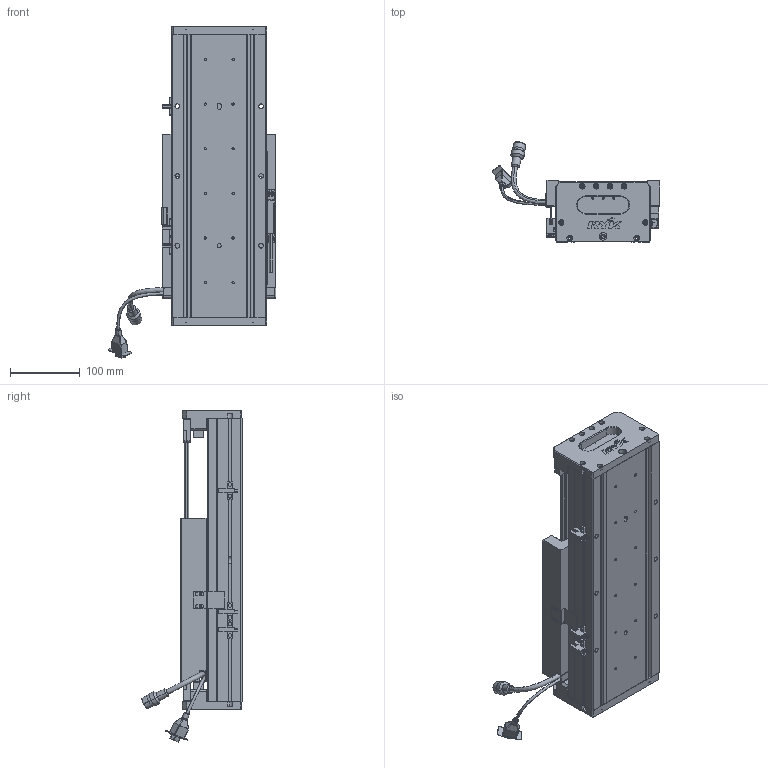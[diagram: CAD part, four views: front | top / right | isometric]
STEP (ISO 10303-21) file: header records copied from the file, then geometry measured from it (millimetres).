
FILE_DESCRIPTION (( 'STEP AP203' ), '1' );
FILE_NAME ('Z3-RY140D-1-L500-B-K.SLDASM_0100.step', '2021-05-17T07:59:46', ( '盈信电脑' ), ( '东莞市道滘镇水果街19号' ), 'SwSTEP 2.0', 'SolidWorks 2016', '' );
FILE_SCHEMA (( 'CONFIG_CONTROL_DESIGN' ));
Length unit declared in the file: millimetre
Products named in the file (36): 080黍杅芛假蚾釱21遴; Z3-RY140-L500詩湍100mm遵_0100; SCREW-M1.6-2; 榋妏寠巭燃_暯_M2_2; HARNESS; Z-RY140感应器672光电感应片; SEAL-Part-1; LABEL; PBU_SHEET; SCALE-Part-2; Z-RY140詩湍奻揤裔; SEAL; SCREW-M1.7; Z3-RY140-L500直线电机模组底座_0100; 140-Z-臏賑輸盄裔(21遴); SCREW-M1.6-1; LABEL-Part-1; Z3-RY140D-1-L500-B-K.SLDASM_0100; 覜茼ん672; SHIELDPLATE; COVER-Part-1; Z-RY140詩湍狟揤裔; SCALE; 140雄赽晤鎢ん堤盄; HARNESS-Part-2; SCREW-M1.6-3; HOLDER0; 140蚥薯蝶輸; PSLH080_PSLF2; SCREW-M1.6; SCREW-M1.7-1; Z-140詩湍傷裔啣; HARNESS-Part-1; Z3-RY140圉猾敕臏賑輸(21遴); COVER; SCALE-Part-1
Assembly tree (41 placements, depth 4):
  Z3-RY140D-1-L500-B-K.SLDASM_0100
    Z3-RY140-L500直线电机模组底座_0100
    Z-RY140感应器672光电感应片
    Z3-RY140圉猾敕臏賑輸(21遴)
    覜茼ん672  x3
    Z3-RY140-L500詩湍100mm遵_0100
    PSLH080_PSLF2
      SCALE
        SCALE-Part-1
        SCALE-Part-2
      HARNESS
        HARNESS-Part-1
        HARNESS-Part-2
      LABEL
        LABEL-Part-1
      COVER
        COVER-Part-1
      SEAL
        SEAL-Part-1
      榋妏寠巭燃_暯_M2_2
      SHIELDPLATE
      SCREW-M1.7
      SCREW-M1.7-1
      PBU_SHEET
      SCREW-M1.6
      SCREW-M1.6-1
      SCREW-M1.6-2
      SCREW-M1.6-3
      HOLDER0
    080黍杅芛假蚾釱21遴
    140-Z-臏賑輸盄裔(21遴)
    Z-140詩湍傷裔啣  x2
    Z-RY140詩湍狟揤裔  x2
    Z-RY140詩湍奻揤裔  x2
    140蚥薯蝶輸  x2
    140雄赽晤鎢ん堤盄
Bounding box: 239.84 x 143.88 x 475.88 mm (x, y, z)
Volume: 2351948.8 mm3; surface area: 594101.9 mm2
Topology: 36 solids, 36 shells, 2478 faces, 6382 edges, 4033 vertices
Faces by surface type: cylinder 1052, plane 1046, cone 258, torus 69, bspline 53
Entity records: 68310 total; most frequent: CARTESIAN_POINT 15497, DIRECTION 10426, ORIENTED_EDGE 9972, EDGE_CURVE 4986, AXIS2_PLACEMENT_3D 3810, VERTEX_POINT 3201, VECTOR 2806, LINE 2806
